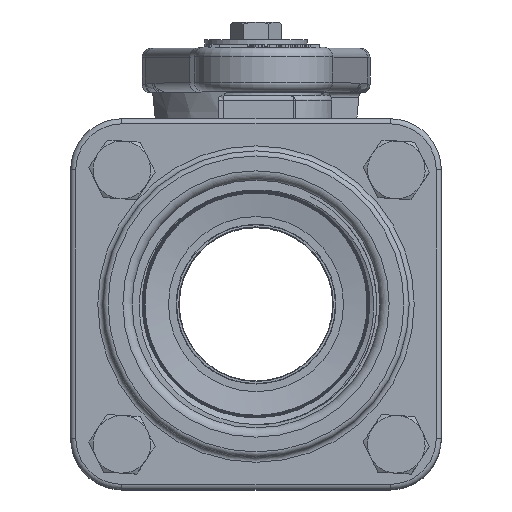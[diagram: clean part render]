
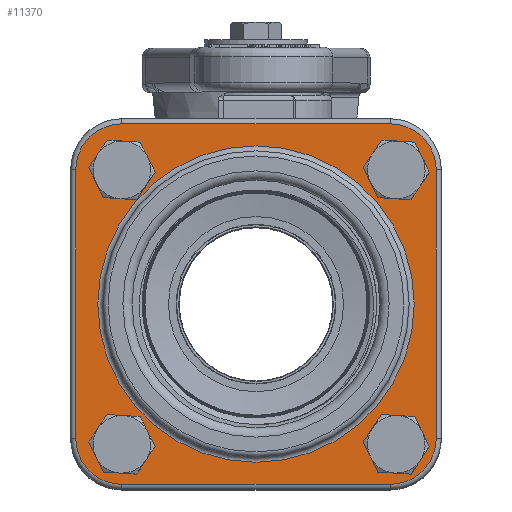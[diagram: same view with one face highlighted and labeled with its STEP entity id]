
A CAD part, top view. The second image highlights one B-rep face of the part: STEP entity #11370.
In plain terms, the highlighted planar face has unit normal (0, 0, 1).
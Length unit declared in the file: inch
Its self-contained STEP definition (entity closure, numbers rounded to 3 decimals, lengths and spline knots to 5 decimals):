
#2700=PLANE('',#12041);
#2937=VECTOR('',#13036,1.);
#2940=VECTOR('',#13043,1.);
#2941=VECTOR('',#13062,1.);
#2944=VECTOR('',#13069,1.);
#3485=LINE('',#20321,#2937);
#3488=LINE('',#20328,#2940);
#3489=LINE('',#20345,#2941);
#3492=LINE('',#20352,#2944);
#4089=VERTEX_POINT('',#20311);
#4090=VERTEX_POINT('',#20313);
#4093=VERTEX_POINT('',#20320);
#4094=VERTEX_POINT('',#20325);
#4097=VERTEX_POINT('',#20332);
#4098=VERTEX_POINT('',#20337);
#4101=VERTEX_POINT('',#20344);
#4102=VERTEX_POINT('',#20349);
#4109=VERTEX_POINT('',#20376);
#4110=VERTEX_POINT('',#20378);
#4111=VERTEX_POINT('',#20380);
#4112=VERTEX_POINT('',#20382);
#4113=VERTEX_POINT('',#20384);
#5021=CIRCLE('',#12013,0.45);
#5027=CIRCLE('',#12022,0.45);
#5031=CIRCLE('',#12027,0.45);
#5035=CIRCLE('',#12034,0.45);
#5038=CIRCLE('',#12042,1.545);
#5039=CIRCLE('',#12043,0.19);
#5040=CIRCLE('',#12044,0.19);
#5041=CIRCLE('',#12045,0.19);
#5042=CIRCLE('',#12046,0.19);
#5495=EDGE_CURVE('',#4089,#4090,#5021,.F.);
#5499=EDGE_CURVE('',#4093,#4089,#3485,.T.);
#5503=EDGE_CURVE('',#4090,#4094,#3488,.T.);
#5505=EDGE_CURVE('',#4097,#4093,#5027,.F.);
#5509=EDGE_CURVE('',#4094,#4098,#5031,.F.);
#5511=EDGE_CURVE('',#4101,#4097,#3489,.T.);
#5515=EDGE_CURVE('',#4098,#4102,#3492,.T.);
#5517=EDGE_CURVE('',#4102,#4101,#5035,.F.);
#5527=EDGE_CURVE('',#4109,#4109,#5038,.T.);
#5528=EDGE_CURVE('',#4110,#4110,#5039,.F.);
#5529=EDGE_CURVE('',#4111,#4111,#5040,.F.);
#5530=EDGE_CURVE('',#4112,#4112,#5041,.F.);
#5531=EDGE_CURVE('',#4113,#4113,#5042,.F.);
#7270=ORIENTED_EDGE('',*,*,#5527,.F.);
#7271=ORIENTED_EDGE('',*,*,#5528,.T.);
#7272=ORIENTED_EDGE('',*,*,#5529,.T.);
#7273=ORIENTED_EDGE('',*,*,#5530,.T.);
#7274=ORIENTED_EDGE('',*,*,#5531,.T.);
#7275=ORIENTED_EDGE('',*,*,#5495,.F.);
#7276=ORIENTED_EDGE('',*,*,#5499,.F.);
#7277=ORIENTED_EDGE('',*,*,#5505,.F.);
#7278=ORIENTED_EDGE('',*,*,#5511,.F.);
#7279=ORIENTED_EDGE('',*,*,#5517,.F.);
#7280=ORIENTED_EDGE('',*,*,#5515,.F.);
#7281=ORIENTED_EDGE('',*,*,#5509,.F.);
#7282=ORIENTED_EDGE('',*,*,#5503,.F.);
#9988=EDGE_LOOP('',(#7270));
#9989=EDGE_LOOP('',(#7271));
#9990=EDGE_LOOP('',(#7272));
#9991=EDGE_LOOP('',(#7273));
#9992=EDGE_LOOP('',(#7274));
#9993=EDGE_LOOP('',(#7275,#7276,#7277,#7278,#7279,#7280,#7281,#7282));
#10694=FACE_BOUND('',#9988,.T.);
#10695=FACE_BOUND('',#9989,.T.);
#10696=FACE_BOUND('',#9990,.T.);
#10697=FACE_BOUND('',#9991,.T.);
#10698=FACE_BOUND('',#9992,.T.);
#10699=FACE_BOUND('',#9993,.T.);
#11370=ADVANCED_FACE('',(#10694,#10695,#10696,#10697,#10698,#10699),#2700,
 .T.);
#12013=AXIS2_PLACEMENT_3D('',#20312,#13026,#13027);
#12022=AXIS2_PLACEMENT_3D('',#20333,#13047,#13048);
#12027=AXIS2_PLACEMENT_3D('',#20340,#13056,#13057);
#12034=AXIS2_PLACEMENT_3D('',#20355,#13073,#13074);
#12041=AXIS2_PLACEMENT_3D('',#20374,#13092,$);
#12042=AXIS2_PLACEMENT_3D('',#20375,#13093,#13094);
#12043=AXIS2_PLACEMENT_3D('',#20377,#13095,#13096);
#12044=AXIS2_PLACEMENT_3D('',#20379,#13097,#13098);
#12045=AXIS2_PLACEMENT_3D('',#20381,#13099,#13100);
#12046=AXIS2_PLACEMENT_3D('',#20383,#13101,#13102);
#13026=DIRECTION('',(0.,0.,1.));
#13027=DIRECTION('',(0.45,0.,0.));
#13036=DIRECTION('',(0.,1.,0.));
#13043=DIRECTION('',(1.,0.,0.));
#13047=DIRECTION('',(0.,0.,1.));
#13048=DIRECTION('',(0.45,0.,0.));
#13056=DIRECTION('',(0.,0.,1.));
#13057=DIRECTION('',(0.45,0.,0.));
#13062=DIRECTION('',(-1.,0.,0.));
#13069=DIRECTION('',(0.,-1.,0.));
#13073=DIRECTION('',(0.,0.,1.));
#13074=DIRECTION('',(0.45,0.,0.));
#13092=DIRECTION('',(0.,0.,1.));
#13093=DIRECTION('',(0.,0.,1.));
#13094=DIRECTION('',(1.545,0.,0.));
#13095=DIRECTION('',(0.,0.,1.));
#13096=DIRECTION('',(0.19,0.,0.));
#13097=DIRECTION('',(0.,0.,1.));
#13098=DIRECTION('',(0.19,0.,0.));
#13099=DIRECTION('',(0.,0.,1.));
#13100=DIRECTION('',(0.19,0.,0.));
#13101=DIRECTION('',(0.,0.,1.));
#13102=DIRECTION('',(0.19,0.,0.));
#20311=CARTESIAN_POINT('',(-1.76,1.31,0.64));
#20312=CARTESIAN_POINT('',(-1.31,1.31,0.64));
#20313=CARTESIAN_POINT('',(-1.31,1.76,0.64));
#20320=CARTESIAN_POINT('',(-1.76,-1.31,0.64));
#20321=CARTESIAN_POINT('',(-1.76,0.,0.64));
#20325=CARTESIAN_POINT('',(1.31,1.76,0.64));
#20328=CARTESIAN_POINT('',(0.,1.76,0.64));
#20332=CARTESIAN_POINT('',(-1.31,-1.76,0.64));
#20333=CARTESIAN_POINT('',(-1.31,-1.31,0.64));
#20337=CARTESIAN_POINT('',(1.76,1.31,0.64));
#20340=CARTESIAN_POINT('',(1.31,1.31,0.64));
#20344=CARTESIAN_POINT('',(1.31,-1.76,0.64));
#20345=CARTESIAN_POINT('',(0.,-1.76,0.64));
#20349=CARTESIAN_POINT('',(1.76,-1.31,0.64));
#20352=CARTESIAN_POINT('',(1.76,0.,0.64));
#20355=CARTESIAN_POINT('',(1.31,-1.31,0.64));
#20374=CARTESIAN_POINT('',(0.,0.,0.64));
#20375=CARTESIAN_POINT('',(0.,0.,0.64));
#20376=CARTESIAN_POINT('',(1.545,0.,0.64));
#20377=CARTESIAN_POINT('',(1.34,1.34,0.64));
#20378=CARTESIAN_POINT('',(1.15,1.34,0.64));
#20379=CARTESIAN_POINT('',(1.34,-1.34,0.64));
#20380=CARTESIAN_POINT('',(1.15,-1.34,0.64));
#20381=CARTESIAN_POINT('',(-1.34,-1.34,0.64));
#20382=CARTESIAN_POINT('',(-1.53,-1.34,0.64));
#20383=CARTESIAN_POINT('',(-1.34,1.34,0.64));
#20384=CARTESIAN_POINT('',(-1.53,1.34,0.64));
